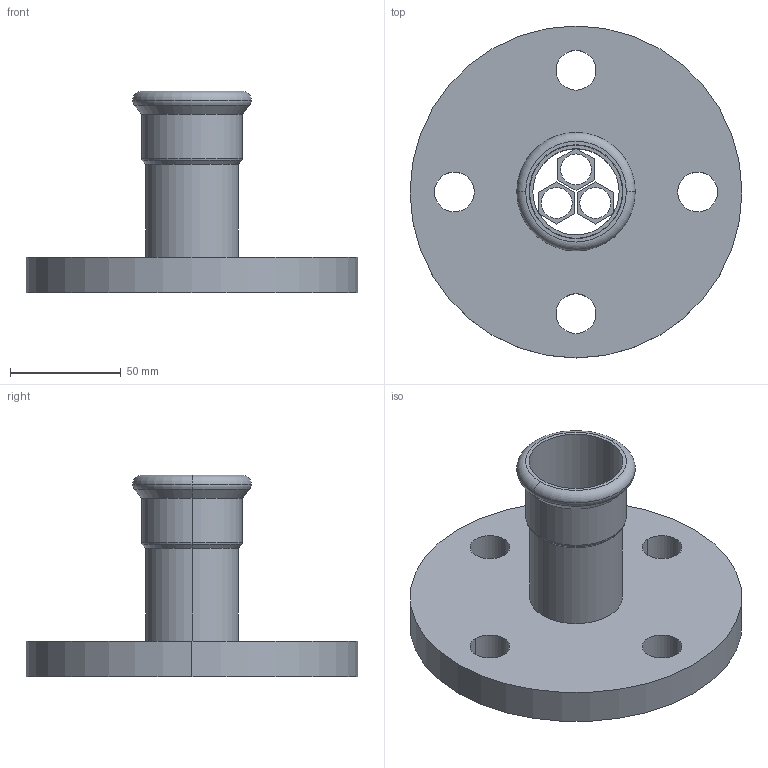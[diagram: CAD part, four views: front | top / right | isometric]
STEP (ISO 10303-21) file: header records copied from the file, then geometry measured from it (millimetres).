
FILE_DESCRIPTION(('OneSpaceDesigner STEP Export'),'2;1');
FILE_NAME('R2726 42.stp','2010-06-10T13:11:41',(''),(''),'OneSpace Designer STEP processor for AP214 (Solid Model)','OneSpace Modeling 15.00A 14-Mar-2007 (C) CoCreate Software GmbH','');
FILE_SCHEMA(('AUTOMOTIVE_DESIGN { 1 0 10303 214 1 1 1 1 }'));
Length unit declared in the file: millimetre
Products named in the file (2): R2726_42
Assembly tree (1 placements, depth 2):
  R2726_42
    R2726_42
Bounding box: 150 x 150 x 91 mm (x, y, z)
Volume: 267560 mm3; surface area: 66219.8 mm2
Topology: 1 solids, 1 shells, 71 faces, 178 edges, 115 vertices
Faces by surface type: plane 32, cylinder 29, torus 6, cone 4
Entity records: 1905 total; most frequent: ORIENTED_EDGE 356, CARTESIAN_POINT 303, DIRECTION 277, EDGE_CURVE 178, VERTEX_POINT 115, VECTOR 99, LINE 99, EDGE_LOOP 93
